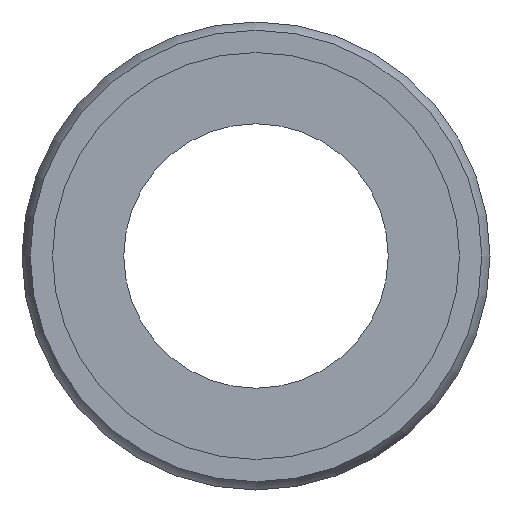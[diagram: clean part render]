
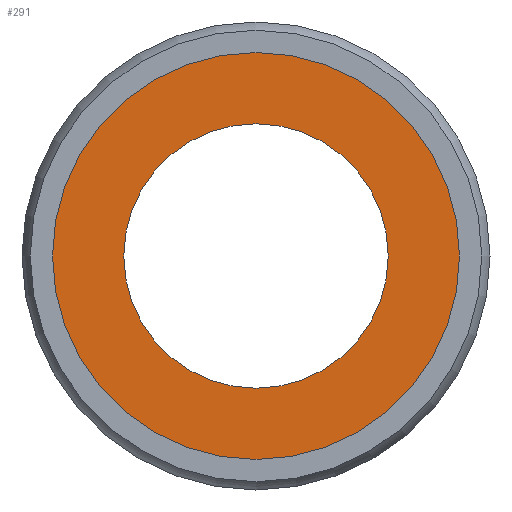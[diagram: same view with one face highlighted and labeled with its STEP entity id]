
A CAD part, left-side view. The second image highlights one B-rep face of the part: STEP entity #291.
In plain terms, the highlighted planar face has unit normal (-1, 0, 0).
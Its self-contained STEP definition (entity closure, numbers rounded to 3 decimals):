
#257=CARTESIAN_POINT('',(0.1,0.0,10.));
#258=VERTEX_POINT('',#257);
#259=CARTESIAN_POINT('',(0.1,0.0,0.));
#260=DIRECTION('',(-1.0,0.0,0.0));
#261=DIRECTION('',(0.0,0.0,1.0));
#262=AXIS2_PLACEMENT_3D('',#259,#260,#261);
#263=CIRCLE('',#262,10.0);
#264=EDGE_CURVE('',#258,#258,#263,.T.);
#272=CARTESIAN_POINT('',(0.1,0.0,8.25));
#273=DIRECTION('',(-1.0,0.0,0.0));
#274=DIRECTION('',(0.0,0.0,1.0));
#275=AXIS2_PLACEMENT_3D('',#272,#273,#274);
#276=PLANE('',#275);
#277=ORIENTED_EDGE('',*,*,#264,.T.);
#278=EDGE_LOOP('',(#277));
#279=FACE_OUTER_BOUND('',#278,.T.);
#280=CARTESIAN_POINT('',(0.1,0.0,6.5));
#281=VERTEX_POINT('',#280);
#282=CARTESIAN_POINT('',(0.1,0.0,0.));
#283=DIRECTION('',(-1.0,0.0,0.0));
#284=DIRECTION('',(0.0,0.0,1.0));
#285=AXIS2_PLACEMENT_3D('',#282,#283,#284);
#286=CIRCLE('',#285,6.5);
#287=EDGE_CURVE('',#281,#281,#286,.T.);
#288=ORIENTED_EDGE('',*,*,#287,.F.);
#289=EDGE_LOOP('',(#288));
#290=FACE_BOUND('',#289,.T.);
#291=ADVANCED_FACE('',(#279,#290),#276,.T.);
